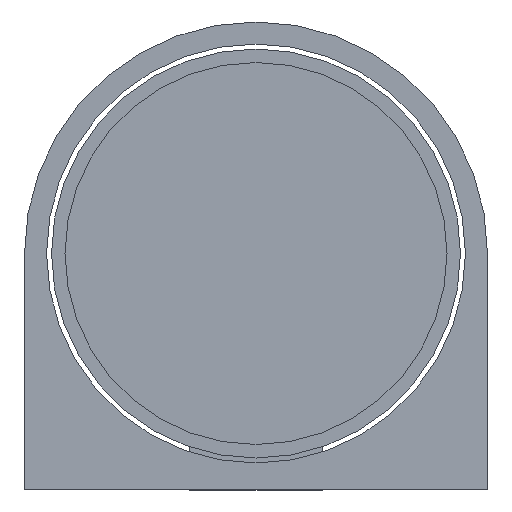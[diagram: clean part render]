
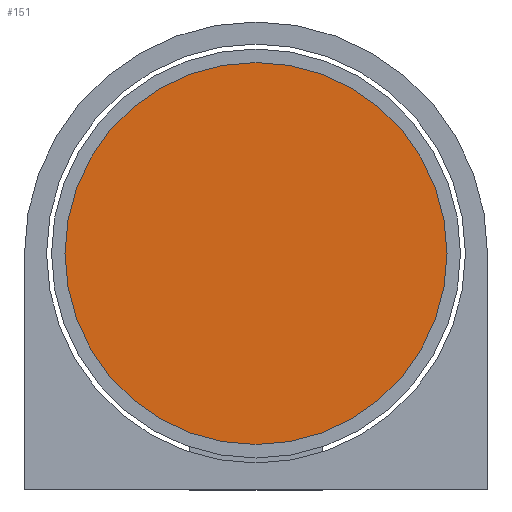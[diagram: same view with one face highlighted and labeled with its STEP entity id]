
A CAD part, front view. The second image highlights one B-rep face of the part: STEP entity #151.
In plain terms, the highlighted planar face has unit normal (0, -1, 0).
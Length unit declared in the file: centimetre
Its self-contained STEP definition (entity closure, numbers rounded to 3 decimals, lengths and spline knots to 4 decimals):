
#23 = CARTESIAN_POINT ( 'NONE',  ( 0., 0., 1.7325 ) ) ;
#129 = CIRCLE ( 'NONE', #417, 1.7325 ) ;
#151 = ADVANCED_FACE ( 'NONE', ( #192 ), #696, .F. ) ;
#192 = FACE_OUTER_BOUND ( 'NONE', #204, .T. ) ;
#196 = VERTEX_POINT ( 'NONE', #539 ) ;
#204 = EDGE_LOOP ( 'NONE', ( #458, #851 ) ) ;
#220 = DIRECTION ( 'NONE',  ( 0., 1., 0. ) ) ;
#294 = CARTESIAN_POINT ( 'NONE',  ( 0., 0., 0. ) ) ;
#403 = CARTESIAN_POINT ( 'NONE',  ( 0., 0., 0. ) ) ;
#417 = AXIS2_PLACEMENT_3D ( 'NONE', #403, #734, #564 ) ;
#425 = AXIS2_PLACEMENT_3D ( 'NONE', #294, #220, #774 ) ;
#458 = ORIENTED_EDGE ( 'NONE', *, *, #468, .F. ) ;
#468 = EDGE_CURVE ( 'NONE', #196, #1021, #129, .T. ) ;
#538 = EDGE_CURVE ( 'NONE', #1021, #196, #631, .T. ) ;
#539 = CARTESIAN_POINT ( 'NONE',  ( 0., 0., -1.7325 ) ) ;
#564 = DIRECTION ( 'NONE',  ( 0., 0., -1. ) ) ;
#631 = CIRCLE ( 'NONE', #777, 1.7325 ) ;
#671 = CARTESIAN_POINT ( 'NONE',  ( 0., 0., 0. ) ) ;
#696 = PLANE ( 'NONE',  #425 ) ;
#734 = DIRECTION ( 'NONE',  ( 0., 1., 0. ) ) ;
#736 = DIRECTION ( 'NONE',  ( 0., 0., -1. ) ) ;
#774 = DIRECTION ( 'NONE',  ( 0., 0., 1. ) ) ;
#777 = AXIS2_PLACEMENT_3D ( 'NONE', #671, #995, #736 ) ;
#851 = ORIENTED_EDGE ( 'NONE', *, *, #538, .F. ) ;
#995 = DIRECTION ( 'NONE',  ( 0., 1., 0. ) ) ;
#1021 = VERTEX_POINT ( 'NONE', #23 ) ;
